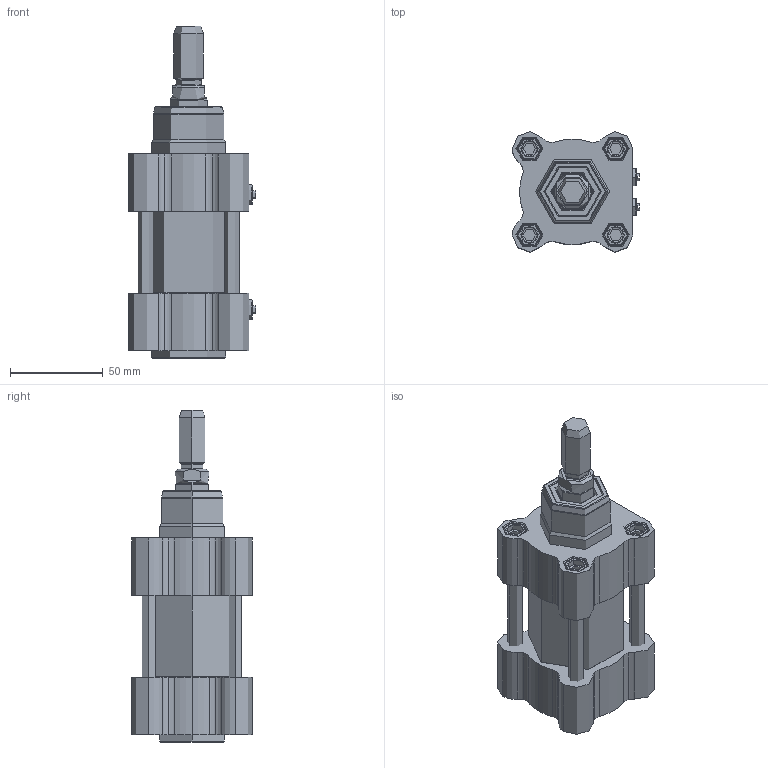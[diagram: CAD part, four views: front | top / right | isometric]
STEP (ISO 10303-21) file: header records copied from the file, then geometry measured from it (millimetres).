
FILE_DESCRIPTION(('STEP AP214'),'1');
FILE_NAME('81M50A0000.stp','2016-07-11T07:18:29',(' '),(' '),'Spatial InterOp 3D',' ',' ');
FILE_SCHEMA(('automotive_design'));
Length unit declared in the file: millimetre
Products named in the file (6): 81M50A0000; CORPO-000; STELO-000; TA; TIRANTE-000; TP
Assembly tree (8 placements, depth 2):
  81M50A0000
    CORPO-000
    STELO-000
    TA
    TIRANTE-000  x4
    TP
Bounding box: 68.7 x 64.94 x 179 mm (x, y, z)
Volume: 296518.7 mm3; surface area: 92372.9 mm2
Topology: 16 solids, 16 shells, 731 faces, 1643 edges, 1000 vertices
Faces by surface type: cone 230, cylinder 210, plane 193, torus 88, revolution 10
Full cylindrical faces by diameter (mm): 3 x2, 7.99 x1, 8 x2, 33 x1
Entity records: 26329 total; most frequent: CARTESIAN_POINT 4079, DIRECTION 3809, ORIENTED_EDGE 3202, EDGE_CURVE 1601, AXIS2_PLACEMENT_3D 1582, VERTEX_POINT 976, CIRCLE 866, EDGE_LOOP 781
